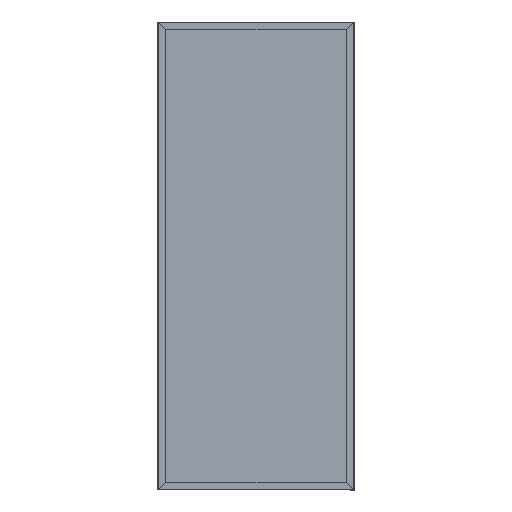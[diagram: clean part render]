
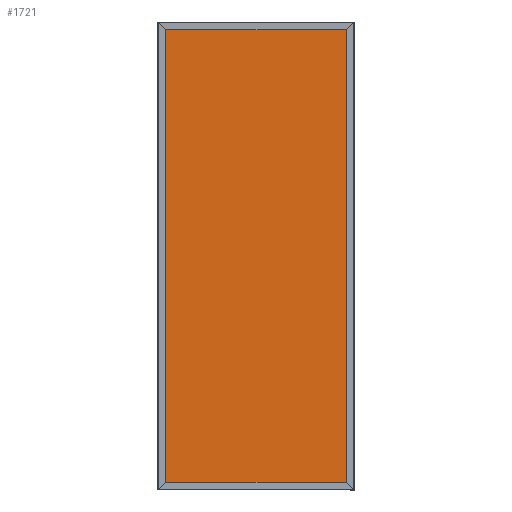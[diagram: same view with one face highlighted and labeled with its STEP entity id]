
A CAD part, top view. The second image highlights one B-rep face of the part: STEP entity #1721.
In plain terms, the highlighted planar face has unit normal (0, 0, 1).
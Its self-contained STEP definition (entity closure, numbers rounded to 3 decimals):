
#595 = EDGE_CURVE ( 'NONE', #16110, #8578, #25063, .T. ) ;
#726 = DIRECTION ( 'NONE',  ( -1., 0., 0. ) ) ;
#1261 = VECTOR ( 'NONE', #20436, 1000. ) ;
#1309 = CARTESIAN_POINT ( 'NONE',  ( 0., 0., -13.25 ) ) ;
#1721 = ADVANCED_FACE ( 'NONE', ( #26146 ), #14402, .F. ) ;
#3513 = CARTESIAN_POINT ( 'NONE',  ( -465.07, 1162.2, -13.25 ) ) ;
#3834 = EDGE_CURVE ( 'NONE', #25516, #16110, #19172, .T. ) ;
#4282 = VECTOR ( 'NONE', #15485, 1000. ) ;
#5042 = CARTESIAN_POINT ( 'NONE',  ( 465.07, 1162.2, -13.25 ) ) ;
#5731 = ORIENTED_EDGE ( 'NONE', *, *, #25081, .F. ) ;
#5758 = DIRECTION ( 'NONE',  ( 0., 0., -1. ) ) ;
#8575 = ORIENTED_EDGE ( 'NONE', *, *, #12412, .F. ) ;
#8578 = VERTEX_POINT ( 'NONE', #3513 ) ;
#8796 = CARTESIAN_POINT ( 'NONE',  ( 0., -1162.2, -13.25 ) ) ;
#9159 = VERTEX_POINT ( 'NONE', #18466 ) ;
#10082 = ORIENTED_EDGE ( 'NONE', *, *, #3834, .T. ) ;
#10778 = CARTESIAN_POINT ( 'NONE',  ( 0., 1162.2, -13.25 ) ) ;
#10949 = ORIENTED_EDGE ( 'NONE', *, *, #595, .T. ) ;
#12412 = EDGE_CURVE ( 'NONE', #9159, #8578, #16830, .T. ) ;
#14402 = PLANE ( 'NONE',  #27891 ) ;
#14459 = DIRECTION ( 'NONE',  ( 0., 1., 0. ) ) ;
#15485 = DIRECTION ( 'NONE',  ( -1., 0., 0. ) ) ;
#16110 = VERTEX_POINT ( 'NONE', #5042 ) ;
#16830 = LINE ( 'NONE', #23693, #28881 ) ;
#17701 = LINE ( 'NONE', #8796, #4282 ) ;
#18447 = EDGE_LOOP ( 'NONE', ( #8575, #5731, #10082, #10949 ) ) ;
#18466 = CARTESIAN_POINT ( 'NONE',  ( -465.07, -1162.2, -13.25 ) ) ;
#18971 = CARTESIAN_POINT ( 'NONE',  ( 465.07, -1162.2, -13.25 ) ) ;
#19172 = LINE ( 'NONE', #27835, #26402 ) ;
#20436 = DIRECTION ( 'NONE',  ( -1., 0., 0. ) ) ;
#23693 = CARTESIAN_POINT ( 'NONE',  ( -465.07, 0., -13.25 ) ) ;
#25063 = LINE ( 'NONE', #10778, #1261 ) ;
#25081 = EDGE_CURVE ( 'NONE', #25516, #9159, #17701, .T. ) ;
#25516 = VERTEX_POINT ( 'NONE', #18971 ) ;
#26146 = FACE_OUTER_BOUND ( 'NONE', #18447, .T. ) ;
#26402 = VECTOR ( 'NONE', #28114, 1000. ) ;
#27835 = CARTESIAN_POINT ( 'NONE',  ( 465.07, 0., -13.25 ) ) ;
#27891 = AXIS2_PLACEMENT_3D ( 'NONE', #1309, #5758, #726 ) ;
#28114 = DIRECTION ( 'NONE',  ( 0., 1., 0. ) ) ;
#28881 = VECTOR ( 'NONE', #14459, 1000. ) ;
